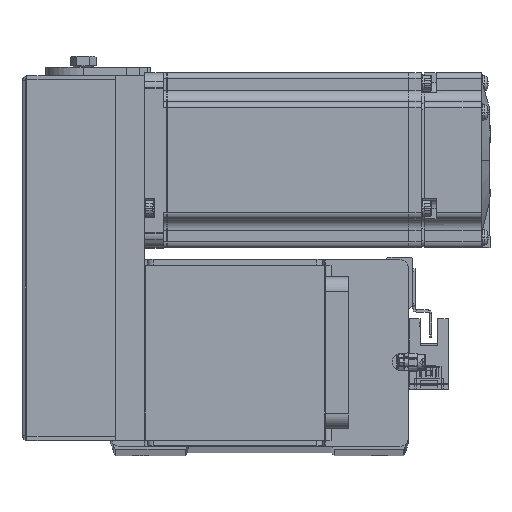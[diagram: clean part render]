
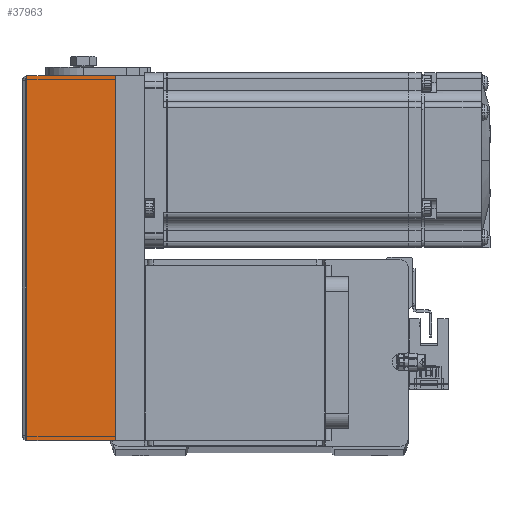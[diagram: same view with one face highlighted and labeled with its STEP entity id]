
A CAD part, top view. The second image highlights one B-rep face of the part: STEP entity #37963.
In plain terms, the highlighted planar face has unit normal (0, 0, 1).
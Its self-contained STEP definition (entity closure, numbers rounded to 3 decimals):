
#493 = CARTESIAN_POINT ( 'NONE',  ( 0., -30.8, 31. ) ) ;
#743 = DIRECTION ( 'NONE',  ( -1., 0., 0. ) ) ;
#920 = CARTESIAN_POINT ( 'NONE',  ( 62.5, -30.3, 31. ) ) ;
#1415 = ORIENTED_EDGE ( 'NONE', *, *, #9038, .F. ) ;
#3020 = ORIENTED_EDGE ( 'NONE', *, *, #4229, .T. ) ;
#3275 = EDGE_LOOP ( 'NONE', ( #1415, #29579, #3020, #3866 ) ) ;
#3625 = AXIS2_PLACEMENT_3D ( 'NONE', #493, #16767, #29806 ) ;
#3693 = PLANE ( 'NONE',  #3625 ) ;
#3866 = ORIENTED_EDGE ( 'NONE', *, *, #12516, .F. ) ;
#4229 = EDGE_CURVE ( 'NONE', #13937, #15442, #40481, .T. ) ;
#5059 = CARTESIAN_POINT ( 'NONE',  ( 62.5, -30.3, 31. ) ) ;
#7623 = EDGE_CURVE ( 'NONE', #26536, #13937, #11506, .T. ) ;
#9038 = EDGE_CURVE ( 'NONE', #26536, #28500, #31121, .T. ) ;
#10564 = VECTOR ( 'NONE', #25513, 1000. ) ;
#11209 = CARTESIAN_POINT ( 'NONE',  ( 0., 0., 31. ) ) ;
#11506 = LINE ( 'NONE', #5059, #28815 ) ;
#12516 = EDGE_CURVE ( 'NONE', #28500, #15442, #38343, .T. ) ;
#13578 = CARTESIAN_POINT ( 'NONE',  ( -62.5, -30.3, 31. ) ) ;
#13937 = VERTEX_POINT ( 'NONE', #39008 ) ;
#15442 = VERTEX_POINT ( 'NONE', #17863 ) ;
#16540 = VECTOR ( 'NONE', #18304, 1000. ) ;
#16767 = DIRECTION ( 'NONE',  ( 0., 0., -1. ) ) ;
#17847 = VECTOR ( 'NONE', #743, 1000. ) ;
#17863 = CARTESIAN_POINT ( 'NONE',  ( -62.5, 0., 31. ) ) ;
#18134 = DIRECTION ( 'NONE',  ( 0., 1., 0. ) ) ;
#18304 = DIRECTION ( 'NONE',  ( -1., 0., 0. ) ) ;
#25513 = DIRECTION ( 'NONE',  ( 0., 1., 0. ) ) ;
#26536 = VERTEX_POINT ( 'NONE', #920 ) ;
#28500 = VERTEX_POINT ( 'NONE', #13578 ) ;
#28815 = VECTOR ( 'NONE', #18134, 1000. ) ;
#29351 = CARTESIAN_POINT ( 'NONE',  ( -62.5, -30.3, 31. ) ) ;
#29579 = ORIENTED_EDGE ( 'NONE', *, *, #7623, .T. ) ;
#29806 = DIRECTION ( 'NONE',  ( 0., -1., 0. ) ) ;
#31121 = LINE ( 'NONE', #40944, #16540 ) ;
#36006 = FACE_OUTER_BOUND ( 'NONE', #3275, .T. ) ;
#37963 = ADVANCED_FACE ( 'NONE', ( #36006 ), #3693, .F. ) ;
#38343 = LINE ( 'NONE', #29351, #10564 ) ;
#39008 = CARTESIAN_POINT ( 'NONE',  ( 62.5, 0., 31. ) ) ;
#40481 = LINE ( 'NONE', #11209, #17847 ) ;
#40944 = CARTESIAN_POINT ( 'NONE',  ( -62.5, -30.3, 31. ) ) ;
